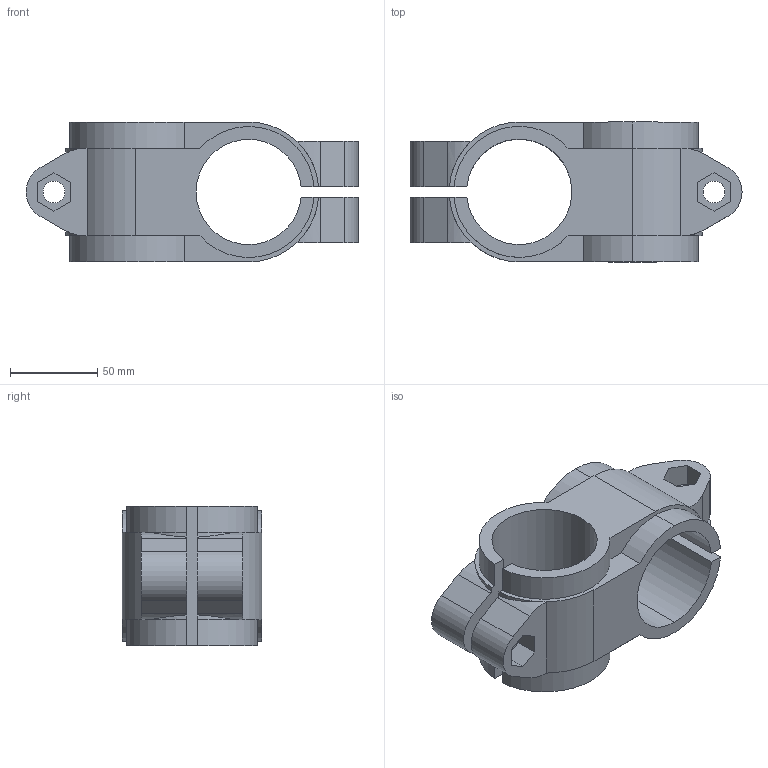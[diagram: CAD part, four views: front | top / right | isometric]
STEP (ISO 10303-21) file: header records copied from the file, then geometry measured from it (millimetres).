
FILE_DESCRIPTION (( 'STEP AP203' ), '1' );
FILE_NAME ('Angle bracket 041J004326.STEP', '2009-10-15T06:19:06', ( 'HP' ), ( '' ), 'SwSTEP 2.0', 'SolidWorks 2008', '' );
FILE_SCHEMA (( 'CONFIG_CONTROL_DESIGN' ));
Length unit declared in the file: millimetre
Products named in the file (1): Angle bracket 041J004326
Bounding box: 190 x 80 x 80 mm (x, y, z)
Volume: 374177 mm3; surface area: 85245.9 mm2
Topology: 1 solids, 1 shells, 107 faces, 300 edges, 200 vertices
Faces by surface type: plane 57, cylinder 50
Entity records: 3671 total; most frequent: CARTESIAN_POINT 736, ORIENTED_EDGE 600, DIRECTION 600, EDGE_CURVE 300, VERTEX_POINT 200, AXIS2_PLACEMENT_3D 200, LINE 200, VECTOR 200
